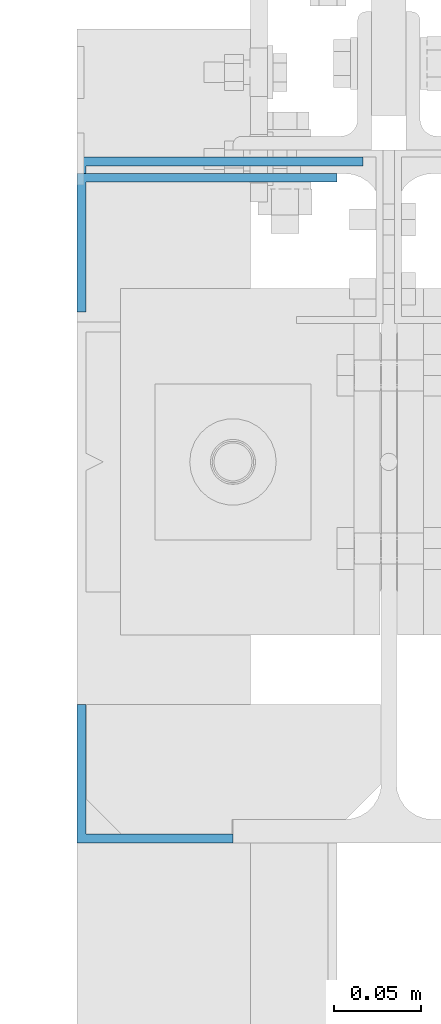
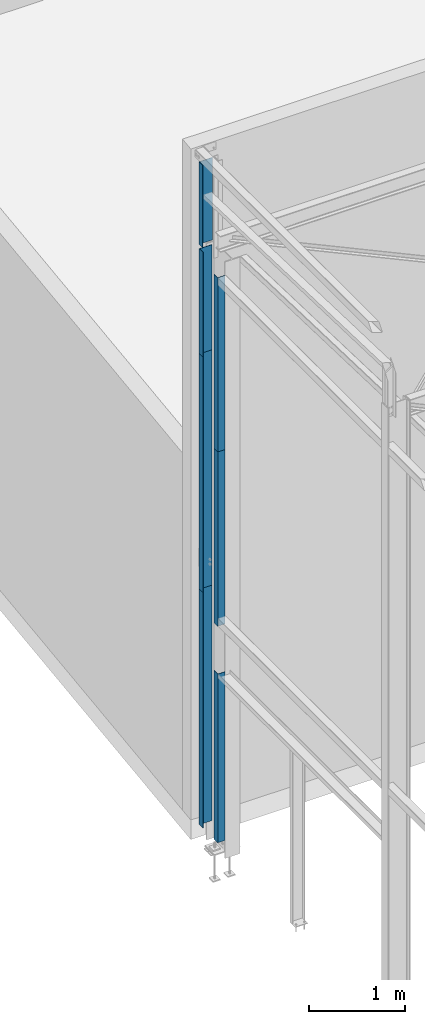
# One storey, part 116 of 123: 7 beams, 7 elements without a shape of their own.
"""IFC2X3 building model written with IfcOpenShell, lengths in millimetres."""

from ifc_helpers import new_model, si_unit, frame, origin_with_axes, place, context, subcontext, project, spatial, faceted_brep, material, type_object, element, aggregate, save


model = new_model("IFC2X3")

# Units and contexts
model_context = context("Model", 3, precision=1e-05, world=origin_with_axes())
body_context = subcontext(model_context, "Body", "Model", "MODEL_VIEW")
ifc_project = project(units=[si_unit("LENGTHUNIT", "METRE", prefix="MILLI"), si_unit("AREAUNIT", "SQUARE_METRE"), si_unit("VOLUMEUNIT", "CUBIC_METRE"), si_unit("MASSUNIT", "GRAM", prefix="KILO"), si_unit("TIMEUNIT", "SECOND"), si_unit("PLANEANGLEUNIT", "RADIAN"), si_unit("SOLIDANGLEUNIT", "STERADIAN"), si_unit("THERMODYNAMICTEMPERATUREUNIT", "DEGREE_CELSIUS"), si_unit("LUMINOUSINTENSITYUNIT", "LUMEN")], contexts=[model_context])

# Site, building, storey
site_placement = place(None, origin_with_axes())
site = spatial("IfcSite", under=ifc_project, at=site_placement, Name="Undefined", CompositionType="ELEMENT")
building_placement = place(site_placement, origin_with_axes())
building = spatial("IfcBuilding", under=site, at=building_placement, Name="Undefined", CompositionType="ELEMENT")
storey_placement = place(building_placement, origin_with_axes())
storey = spatial("IfcBuildingStorey", under=building, at=storey_placement, Name="Undefined", CompositionType="ELEMENT", Elevation=0.0)

# Assembly, beam
assembly_1_placement = place(storey_placement, origin_with_axes())
assembly_1 = element("IfcElementAssembly", 1, at=assembly_1_placement, inside=storey, Name="Steel Assembly", AssemblyPlace="NOTDEFINED", PredefinedType="RIGID_FRAME")
ifc_material = material(Name="STEEL/S235-E24")
beam_type_1 = type_object("IfcBeamType", Name="PL5*3000", PredefinedType="NOTDEFINED")
beam_1_placement = place(assembly_1_placement, frame((-29.9999993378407, 15274.0000080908, 4500.00001391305), z_axis=(0.0, 0.0, 1.0), x_axis=(-1.0, 0.0, 0.0)))
beam_1 = element("IfcBeam", 2, at=beam_1_placement, type_object=beam_type_1, material=ifc_material, Name="FEUILLURE", ObjectType="PL5*3000", context=body_context, shape_type="Brep", body=[
    faceted_brep([(1.43700162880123e-09, -2.5, -1500.0), (6.47560227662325e-10, -2.49999999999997, 1500.0), (-1.43700162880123e-09, 2.50000000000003, 1500.0), (-6.43922248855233e-10, 2.5, -1500.0), (145.000030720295, 2.50000005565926, 1500.0), (145.000030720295, 2.50000005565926, -1500.0), (150.000030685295, -2.49999994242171, -1500.0), (150.000030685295, -2.49999994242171, 1500.0), (145.000031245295, 77.4999991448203, 1500.0), (145.000031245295, 77.4999991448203, -1500.0), (150.000031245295, 77.4999991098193, 1500.0), (150.000031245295, 77.4999991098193, -1500.0)], [[[0, 1, 2, 3]], [[3, 2, 4, 5]], [[1, 0, 6, 7]], [[5, 4, 8, 9]], [[4, 2, 1, 7, 10, 8]], [[7, 6, 11, 10]], [[6, 0, 3, 5, 9, 11]], [[10, 11, 9, 8]]]),
])
aggregate(assembly_1, [beam_1])

assembly_2_placement = place(storey_placement, origin_with_axes())
assembly_2 = element("IfcElementAssembly", 3, at=assembly_2_placement, inside=storey, Name="Steel Assembly", AssemblyPlace="NOTDEFINED", PredefinedType="RIGID_FRAME")
beam_2_placement = place(assembly_2_placement, frame((-29.9999993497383, 15274.0000047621, 1499.99999848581), z_axis=(0.0, 0.0, 1.0), x_axis=(-1.0, 0.0, 0.0)))
beam_2 = element("IfcBeam", 4, at=beam_2_placement, type_object=beam_type_1, material=ifc_material, Name="FEUILLURE", ObjectType="PL5*3000", context=body_context, shape_type="Brep", body=[
    faceted_brep([(1.43700162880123e-09, -2.5, -1500.0), (6.47560227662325e-10, -2.49999999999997, 1500.0), (-1.43700162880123e-09, 2.50000000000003, 1500.0), (-6.43922248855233e-10, 2.5, -1500.0), (145.000030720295, 2.50000005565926, 1500.0), (145.000030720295, 2.50000005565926, -1500.0), (150.000030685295, -2.49999994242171, -1500.0), (150.000030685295, -2.49999994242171, 1500.0), (145.000031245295, 77.4999991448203, 1500.0), (145.000031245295, 77.4999991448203, -1500.0), (150.000031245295, 77.4999991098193, 1500.0), (150.000031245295, 77.4999991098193, -1500.0)], [[[0, 1, 2, 3]], [[3, 2, 4, 5]], [[1, 0, 6, 7]], [[5, 4, 8, 9]], [[4, 2, 1, 7, 10, 8]], [[7, 6, 11, 10]], [[6, 0, 3, 5, 9, 11]], [[10, 11, 9, 8]]]),
])
aggregate(assembly_2, [beam_2])

assembly_3_placement = place(storey_placement, origin_with_axes())
assembly_3 = element("IfcElementAssembly", 5, at=assembly_3_placement, inside=storey, Name="Steel Assembly", AssemblyPlace="NOTDEFINED", PredefinedType="RIGID_FRAME")
beam_type_2 = type_object("IfcBeamType", Name="PL5*2150", PredefinedType="NOTDEFINED")
beam_3_placement = place(assembly_3_placement, frame((-89.999996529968, 14892.5000032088, 1074.99999872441), z_axis=(0.0, 0.0, 1.0), x_axis=(-1.0, 0.0, 0.0)))
beam_3 = element("IfcBeam", 6, at=beam_3_placement, type_object=beam_type_2, material=ifc_material, Name="FEUILLURE", ObjectType="PL5*2150", context=body_context, shape_type="Brep", body=[
    faceted_brep([(9.51402512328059e-10, -2.50000000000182, -1075.0), (9.51402512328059e-10, -2.50000000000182, 1075.0), (-9.51374090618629e-10, 2.49999999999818, 1075.0), (-9.51374090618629e-10, 2.49999999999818, -1075.0), (90.0000228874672, 2.50000003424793, 1075.0), (90.0000228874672, 2.50000003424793, -1075.0), (85.0000233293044, -2.49999996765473, -1075.0), (85.0000233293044, -2.49999996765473, 1075.0), (90.000029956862, -77.500000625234, 1075.0), (90.000029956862, -77.500000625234, -1075.0), (85.000029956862, -77.5000010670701, 1075.0), (85.000029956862, -77.5000010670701, -1075.0)], [[[0, 1, 2, 3]], [[3, 2, 4, 5]], [[1, 0, 6, 7]], [[5, 4, 8, 9]], [[4, 2, 1, 7, 10, 8]], [[7, 6, 11, 10]], [[6, 0, 3, 5, 9, 11]], [[10, 11, 9, 8]]]),
])
aggregate(assembly_3, [beam_3])

assembly_4_placement = place(storey_placement, origin_with_axes())
assembly_4 = element("IfcElementAssembly", 7, at=assembly_4_placement, inside=storey, Name="Steel Assembly", AssemblyPlace="NOTDEFINED", PredefinedType="RIGID_FRAME")
beam_type_3 = type_object("IfcBeamType", Name="PL5*1050", PredefinedType="NOTDEFINED")
beam_4_placement = place(assembly_4_placement, frame((-14.9999994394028, 15283.4917907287, 7915.00002933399), z_axis=(0.0, 0.0, 1.0), x_axis=(-1.0, 0.0, 0.0)))
beam_4 = element("IfcBeam", 8, at=beam_4_placement, type_object=beam_type_3, material=ifc_material, Name="FEUILLURE", ObjectType="PL5*1050", context=body_context, shape_type="Brep", body=[
    faceted_brep([(9.73159330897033e-10, -2.5, -525.0), (9.73159330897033e-10, -2.5, 525.000000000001), (-9.73159330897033e-10, 2.5, 525.000000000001), (-9.73159330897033e-10, 2.5, -525.0), (160.000030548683, 2.5000000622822, 525.000000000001), (160.000030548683, 2.5000000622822, -525.0), (165.000030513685, -2.49999993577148, -525.0), (165.000030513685, -2.49999993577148, 525.000000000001), (160.000031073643, 77.4999988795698, 525.000000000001), (160.000031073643, 77.4999988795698, -525.0), (165.000031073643, 77.4999988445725, 525.000000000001), (165.000031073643, 77.4999988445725, -525.0)], [[[0, 1, 2, 3]], [[3, 2, 4, 5]], [[1, 0, 6, 7]], [[5, 4, 8, 9]], [[4, 2, 1, 7, 10, 8]], [[7, 6, 11, 10]], [[6, 0, 3, 5, 9, 11]], [[10, 11, 9, 8]]]),
])
aggregate(assembly_4, [beam_4])

assembly_5_placement = place(storey_placement, origin_with_axes())
assembly_5 = element("IfcElementAssembly", 9, at=assembly_5_placement, inside=storey, Name="Steel Assembly", AssemblyPlace="NOTDEFINED", PredefinedType="RIGID_FRAME")
beam_type_4 = type_object("IfcBeamType", Name="PL5*1340", PredefinedType="NOTDEFINED")
beam_5_placement = place(assembly_5_placement, frame((-29.9999993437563, 15274.0000097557, 6670.00002933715), z_axis=(0.0, 0.0, 1.0), x_axis=(-1.0, 0.0, 0.0)))
beam_5 = element("IfcBeam", 10, at=beam_5_placement, type_object=beam_type_4, material=ifc_material, Name="FEUILLURE", ObjectType="PL5*1340", context=body_context, shape_type="Brep", body=[
    faceted_brep([(9.59669677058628e-10, -2.50000000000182, -670.0), (9.59669677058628e-10, -2.50000000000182, 670.0), (-9.59666124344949e-10, 2.49999999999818, 670.0), (-9.59666124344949e-10, 2.49999999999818, -670.0), (145.000030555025, 2.50000005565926, 670.0), (145.000030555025, 2.50000005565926, -670.0), (150.000030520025, -2.49999994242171, -670.0), (150.000030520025, -2.49999994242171, 670.0), (145.000031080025, 77.499998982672, 670.0), (145.000031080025, 77.499998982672, -670.0), (150.000031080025, 77.499998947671, 670.0), (150.000031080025, 77.499998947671, -670.0)], [[[0, 1, 2, 3]], [[3, 2, 4, 5]], [[1, 0, 6, 7]], [[5, 4, 8, 9]], [[4, 2, 1, 7, 10, 8]], [[7, 6, 11, 10]], [[6, 0, 3, 5, 9, 11]], [[10, 11, 9, 8]]]),
])
aggregate(assembly_5, [beam_5])

assembly_6_placement = place(storey_placement, origin_with_axes())
assembly_6 = element("IfcElementAssembly", 11, at=assembly_6_placement, inside=storey, Name="Steel Assembly", AssemblyPlace="NOTDEFINED", PredefinedType="RIGID_FRAME")
beam_type_5 = type_object("IfcBeamType", Name="PL5*2220", PredefinedType="NOTDEFINED")
beam_6_placement = place(assembly_6_placement, frame((-89.9999965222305, 14892.5000088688, 6090.00000054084), z_axis=(0.0, 0.0, 1.0), x_axis=(-1.0, 0.0, 0.0)))
beam_6 = element("IfcBeam", 12, at=beam_6_placement, type_object=beam_type_5, material=ifc_material, Name="FEUILLURE", ObjectType="PL5*2220", context=body_context, shape_type="Brep", body=[
    faceted_brep([(9.52695700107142e-10, -2.50000000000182, -1110.0), (9.52695700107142e-10, -2.50000000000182, 1110.0), (-9.52695700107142e-10, 2.49999999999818, 1110.0), (-9.52695700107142e-10, 2.49999999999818, -1110.0), (90.000022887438, 2.50000003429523, 1110.0), (90.000022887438, 2.50000003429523, -1110.0), (85.0000233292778, -2.49999996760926, -1110.0), (85.0000233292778, -2.49999996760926, 1110.0), (90.0000299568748, -77.5000006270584, 1110.0), (90.0000299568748, -77.5000006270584, -1110.0), (85.0000299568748, -77.5000010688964, 1110.0), (85.0000299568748, -77.5000010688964, -1110.0)], [[[0, 1, 2, 3]], [[3, 2, 4, 5]], [[1, 0, 6, 7]], [[5, 4, 8, 9]], [[4, 2, 1, 7, 10, 8]], [[7, 6, 11, 10]], [[6, 0, 3, 5, 9, 11]], [[10, 11, 9, 8]]]),
])
aggregate(assembly_6, [beam_6])

assembly_7_placement = place(storey_placement, origin_with_axes())
assembly_7 = element("IfcElementAssembly", 13, at=assembly_7_placement, inside=storey, Name="Steel Assembly", AssemblyPlace="NOTDEFINED", PredefinedType="RIGID_FRAME")
beam_7_placement = place(assembly_7_placement, frame((-89.9999965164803, 14892.5000065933, 3870.00000054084), z_axis=(0.0, 0.0, 1.0), x_axis=(-1.0, 0.0, 0.0)))
beam_7 = element("IfcBeam", 14, at=beam_7_placement, type_object=beam_type_5, material=ifc_material, Name="FEUILLURE", ObjectType="PL5*2220", context=body_context, shape_type="Brep", body=[
    faceted_brep([(9.52695700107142e-10, -2.50000000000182, -1110.0), (9.52695700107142e-10, -2.50000000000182, 1110.0), (-9.52695700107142e-10, 2.49999999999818, 1110.0), (-9.52695700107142e-10, 2.49999999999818, -1110.0), (90.000022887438, 2.50000003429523, 1110.0), (90.000022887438, 2.50000003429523, -1110.0), (85.0000233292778, -2.49999996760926, -1110.0), (85.0000233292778, -2.49999996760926, 1110.0), (90.0000299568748, -77.5000006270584, 1110.0), (90.0000299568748, -77.5000006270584, -1110.0), (85.0000299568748, -77.5000010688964, 1110.0), (85.0000299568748, -77.5000010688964, -1110.0)], [[[0, 1, 2, 3]], [[3, 2, 4, 5]], [[1, 0, 6, 7]], [[5, 4, 8, 9]], [[4, 2, 1, 7, 10, 8]], [[7, 6, 11, 10]], [[6, 0, 3, 5, 9, 11]], [[10, 11, 9, 8]]]),
])
aggregate(assembly_7, [beam_7])

save(model, "model.ifc")
